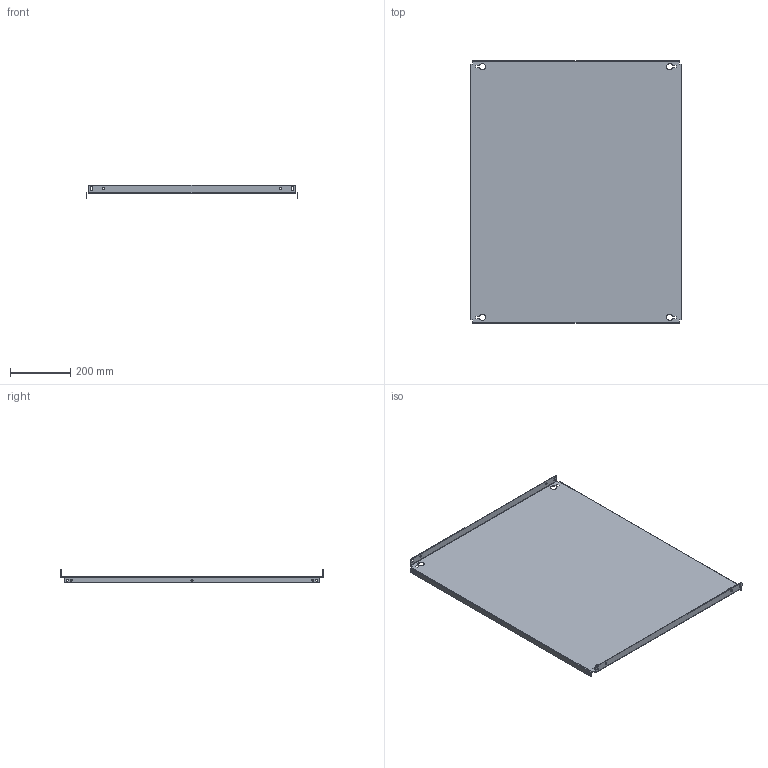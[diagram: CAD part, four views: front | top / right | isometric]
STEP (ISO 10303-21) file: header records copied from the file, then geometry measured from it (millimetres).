
FILE_DESCRIPTION (( 'STEP AP203' ), '1' );
FILE_NAME ('R5PPS9008.STEP', '2021-12-20T07:01:43', ( '' ), ( '' ), 'SwSTEP 2.0', 'SolidWorks 2020', '' );
FILE_SCHEMA (( 'CONFIG_CONTROL_DESIGN' ));
Length unit declared in the file: millimetre
Products named in the file (1): R5PPS9008
Bounding box: 700 x 869 x 43 mm (x, y, z)
Volume: 1329387 mm3; surface area: 1337577.9 mm2
Topology: 1 solids, 1 shells, 136 faces, 370 edges, 236 vertices
Faces by surface type: cylinder 78, plane 58
Entity records: 4479 total; most frequent: DIRECTION 800, CARTESIAN_POINT 743, ORIENTED_EDGE 740, EDGE_CURVE 370, AXIS2_PLACEMENT_3D 293, VERTEX_POINT 236, LINE 214, VECTOR 214
